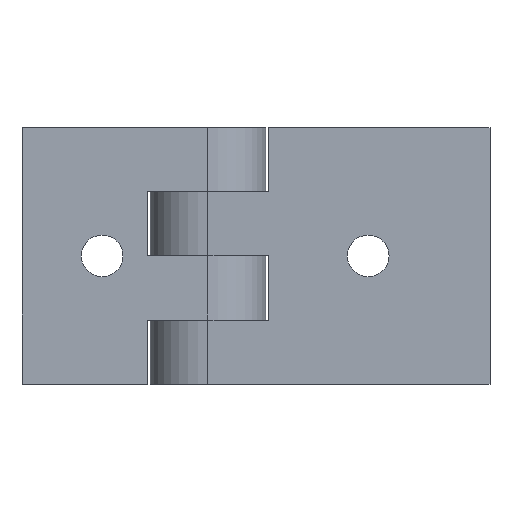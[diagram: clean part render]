
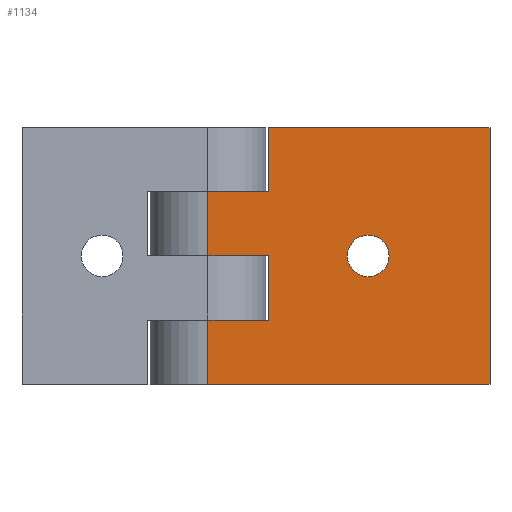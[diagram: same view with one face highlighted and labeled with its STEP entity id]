
A CAD part, top view. The second image highlights one B-rep face of the part: STEP entity #1134.
In plain terms, the highlighted planar face has unit normal (0, 0, 1).
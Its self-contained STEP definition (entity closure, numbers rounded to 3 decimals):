
#790=DIRECTION('',(1.,0.,0.));
#791=VECTOR('',#790,34.5);
#792=CARTESIAN_POINT('',(-44.,-20.,0.));
#793=LINE('',#792,#791);
#798=DIRECTION('',(-1.,0.,0.));
#799=VECTOR('',#798,9.5);
#800=CARTESIAN_POINT('',(0.,10.,0.));
#801=LINE('',#800,#799);
#802=DIRECTION('',(0.,-1.,0.));
#803=VECTOR('',#802,10.);
#804=CARTESIAN_POINT('',(-9.5,10.,0.));
#805=LINE('',#804,#803);
#806=DIRECTION('',(-1.,0.,0.));
#807=VECTOR('',#806,9.5);
#808=CARTESIAN_POINT('',(0.,0.,0.));
#809=LINE('',#808,#807);
#810=DIRECTION('',(-1.,0.,0.));
#811=VECTOR('',#810,9.5);
#812=CARTESIAN_POINT('',(0.,-10.,0.));
#813=LINE('',#812,#811);
#814=DIRECTION('',(0.,1.,0.));
#815=VECTOR('',#814,10.);
#816=CARTESIAN_POINT('',(-9.5,-20.,0.));
#817=LINE('',#816,#815);
#818=DIRECTION('',(0.,1.,0.));
#819=VECTOR('',#818,40.);
#820=CARTESIAN_POINT('',(-44.,-20.,0.));
#821=LINE('',#820,#819);
#822=CARTESIAN_POINT('',(-25.,0.,0.));
#823=DIRECTION('',(0.,0.,-1.));
#824=DIRECTION('',(1.,0.,0.));
#825=AXIS2_PLACEMENT_3D('',#822,#823,#824);
#827=CARTESIAN_POINT('',(-25.,0.,0.));
#828=DIRECTION('',(0.,0.,-1.));
#829=DIRECTION('',(-1.,0.,0.));
#830=AXIS2_PLACEMENT_3D('',#827,#828,#829);
#847=DIRECTION('',(0.,1.,0.));
#848=VECTOR('',#847,10.);
#849=CARTESIAN_POINT('',(0.,10.,0.));
#850=LINE('',#849,#848);
#861=DIRECTION('',(0.,1.,0.));
#862=VECTOR('',#861,10.);
#863=CARTESIAN_POINT('',(0.,-10.,0.));
#864=LINE('',#863,#862);
#865=DIRECTION('',(1.,0.,0.));
#866=VECTOR('',#865,44.);
#867=CARTESIAN_POINT('',(-44.,20.,0.));
#868=LINE('',#867,#866);
#1005=CARTESIAN_POINT('',(-44.,-20.,0.));
#1007=VERTEX_POINT('',#1005);
#1008=CARTESIAN_POINT('',(-44.,20.,0.));
#1009=CARTESIAN_POINT('',(0.,20.,0.));
#1010=VERTEX_POINT('',#1008);
#1011=VERTEX_POINT('',#1009);
#1020=CARTESIAN_POINT('',(-9.5,-20.,0.));
#1022=VERTEX_POINT('',#1020);
#1024=CARTESIAN_POINT('',(0.,10.,0.));
#1025=CARTESIAN_POINT('',(-9.5,10.,0.));
#1026=VERTEX_POINT('',#1024);
#1027=VERTEX_POINT('',#1025);
#1028=CARTESIAN_POINT('',(-9.5,0.,0.));
#1029=VERTEX_POINT('',#1028);
#1030=CARTESIAN_POINT('',(0.,0.,0.));
#1031=VERTEX_POINT('',#1030);
#1032=CARTESIAN_POINT('',(0.,-10.,0.));
#1033=CARTESIAN_POINT('',(-9.5,-10.,0.));
#1034=VERTEX_POINT('',#1032);
#1035=VERTEX_POINT('',#1033);
#1060=CARTESIAN_POINT('',(-21.75,0.,0.));
#1061=CARTESIAN_POINT('',(-28.25,0.,0.));
#1062=VERTEX_POINT('',#1060);
#1063=VERTEX_POINT('',#1061);
#1103=CARTESIAN_POINT('',(-44.,-20.,0.));
#1104=DIRECTION('',(0.,0.,1.));
#1105=DIRECTION('',(1.,0.,0.));
#1106=AXIS2_PLACEMENT_3D('',#1103,#1104,#1105);
#1107=PLANE('',#1106);
#1109=ORIENTED_EDGE('',*,*,#1108,.T.);
#1111=ORIENTED_EDGE('',*,*,#1110,.T.);
#1113=ORIENTED_EDGE('',*,*,#1112,.F.);
#1115=ORIENTED_EDGE('',*,*,#1114,.F.);
#1117=ORIENTED_EDGE('',*,*,#1116,.T.);
#1118=ORIENTED_EDGE('',*,*,#1094,.F.);
#1119=ORIENTED_EDGE('',*,*,#1083,.F.);
#1121=ORIENTED_EDGE('',*,*,#1120,.T.);
#1123=ORIENTED_EDGE('',*,*,#1122,.T.);
#1125=ORIENTED_EDGE('',*,*,#1124,.F.);
#1126=EDGE_LOOP('',(#1109,#1111,#1113,#1115,#1117,#1118,#1119,#1121,#1123,
#1125));
#1127=FACE_OUTER_BOUND('',#1126,.F.);
#1129=ORIENTED_EDGE('',*,*,#1128,.F.);
#1131=ORIENTED_EDGE('',*,*,#1130,.F.);
#1132=EDGE_LOOP('',(#1129,#1131));
#1133=FACE_BOUND('',#1132,.F.);
#1134=ADVANCED_FACE('',(#1127,#1133),#1107,.T.);
#826=CIRCLE('',#825,3.25);
#831=CIRCLE('',#830,3.25);
#1083=EDGE_CURVE('',#1007,#1022,#793,.T.);
#1094=EDGE_CURVE('',#1022,#1035,#817,.T.);
#1108=EDGE_CURVE('',#1026,#1027,#801,.T.);
#1110=EDGE_CURVE('',#1027,#1029,#805,.T.);
#1112=EDGE_CURVE('',#1031,#1029,#809,.T.);
#1114=EDGE_CURVE('',#1034,#1031,#864,.T.);
#1116=EDGE_CURVE('',#1034,#1035,#813,.T.);
#1120=EDGE_CURVE('',#1007,#1010,#821,.T.);
#1122=EDGE_CURVE('',#1010,#1011,#868,.T.);
#1124=EDGE_CURVE('',#1026,#1011,#850,.T.);
#1128=EDGE_CURVE('',#1062,#1063,#826,.T.);
#1130=EDGE_CURVE('',#1063,#1062,#831,.T.);
